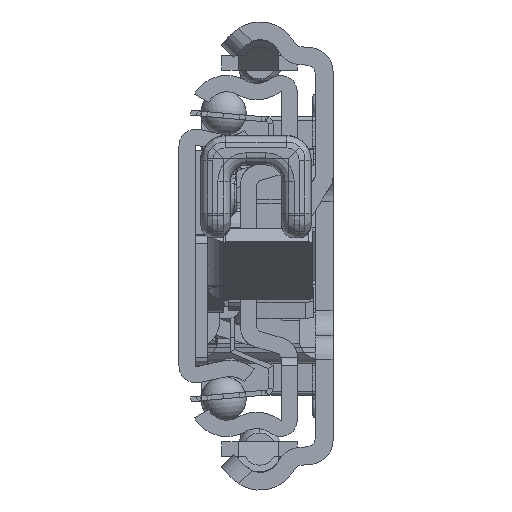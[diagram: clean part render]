
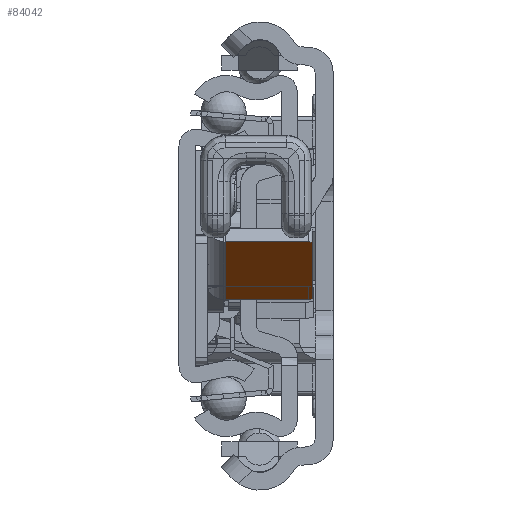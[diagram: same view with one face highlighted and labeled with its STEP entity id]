
A CAD part, left-side view. The second image highlights one B-rep face of the part: STEP entity #84042.
In plain terms, the highlighted planar face has unit normal (-0.596, 0, -0.803) as drawn and (-0.597, -0.802, 0) by its records, which use the part's own axes.
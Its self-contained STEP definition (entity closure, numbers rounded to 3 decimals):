
#83434=DIRECTION('',(0.802,-0.597,0.));
#83435=VECTOR('',#83434,12.);
#83436=CARTESIAN_POINT('',(31.957,-10.314,2.2));
#83437=LINE('',#83436,#83435);
#83462=CARTESIAN_POINT('',(41.184,-17.178,12.5));
#83463=DIRECTION('',(-0.597,-0.802,0.));
#83464=DIRECTION('',(0.802,-0.597,0.));
#83465=AXIS2_PLACEMENT_3D('',#83462,#83463,#83464);
#83467=DIRECTION('',(0.,0.,1.));
#83468=VECTOR('',#83467,10.3);
#83469=CARTESIAN_POINT('',(41.586,-17.476,2.2));
#83470=LINE('',#83469,#83468);
#83471=DIRECTION('',(0.,0.,-1.));
#83472=VECTOR('',#83471,10.3);
#83473=CARTESIAN_POINT('',(31.957,-10.314,12.5));
#83474=LINE('',#83473,#83472);
#83475=CARTESIAN_POINT('',(32.358,-10.613,12.5));
#83476=DIRECTION('',(-0.597,-0.802,0.));
#83477=DIRECTION('',(0.,0.,1.));
#83478=AXIS2_PLACEMENT_3D('',#83475,#83476,#83477);
#83480=DIRECTION('',(-0.802,0.597,0.));
#83481=VECTOR('',#83480,11.);
#83482=CARTESIAN_POINT('',(41.184,-17.178,13.));
#83483=LINE('',#83482,#83481);
#83696=CARTESIAN_POINT('',(31.957,-10.314,2.2));
#83697=CARTESIAN_POINT('',(41.586,-17.476,2.2));
#83698=VERTEX_POINT('',#83696);
#83699=VERTEX_POINT('',#83697);
#83728=CARTESIAN_POINT('',(41.586,-17.476,12.5));
#83729=CARTESIAN_POINT('',(41.184,-17.178,13.));
#83730=VERTEX_POINT('',#83728);
#83731=VERTEX_POINT('',#83729);
#83736=CARTESIAN_POINT('',(32.358,-10.613,13.));
#83737=CARTESIAN_POINT('',(31.957,-10.314,12.5));
#83738=VERTEX_POINT('',#83736);
#83739=VERTEX_POINT('',#83737);
#84024=CARTESIAN_POINT('',(34.726,-12.374,0.));
#84025=DIRECTION('',(-0.597,-0.802,0.));
#84026=DIRECTION('',(0.802,-0.597,0.));
#84027=AXIS2_PLACEMENT_3D('',#84024,#84025,#84026);
#84028=PLANE('',#84027);
#84030=ORIENTED_EDGE('',*,*,#84029,.F.);
#84032=ORIENTED_EDGE('',*,*,#84031,.F.);
#84033=ORIENTED_EDGE('',*,*,#84011,.F.);
#84035=ORIENTED_EDGE('',*,*,#84034,.F.);
#84037=ORIENTED_EDGE('',*,*,#84036,.F.);
#84039=ORIENTED_EDGE('',*,*,#84038,.F.);
#84040=EDGE_LOOP('',(#84030,#84032,#84033,#84035,#84037,#84039));
#84041=FACE_OUTER_BOUND('',#84040,.F.);
#83466=CIRCLE('',#83465,0.5);
#83479=CIRCLE('',#83478,0.5);
#84011=EDGE_CURVE('',#83698,#83699,#83437,.T.);
#84029=EDGE_CURVE('',#83730,#83731,#83466,.T.);
#84031=EDGE_CURVE('',#83699,#83730,#83470,.T.);
#84034=EDGE_CURVE('',#83739,#83698,#83474,.T.);
#84036=EDGE_CURVE('',#83738,#83739,#83479,.T.);
#84038=EDGE_CURVE('',#83731,#83738,#83483,.T.);
#84042=ADVANCED_FACE('',(#84041),#84028,.T.);
